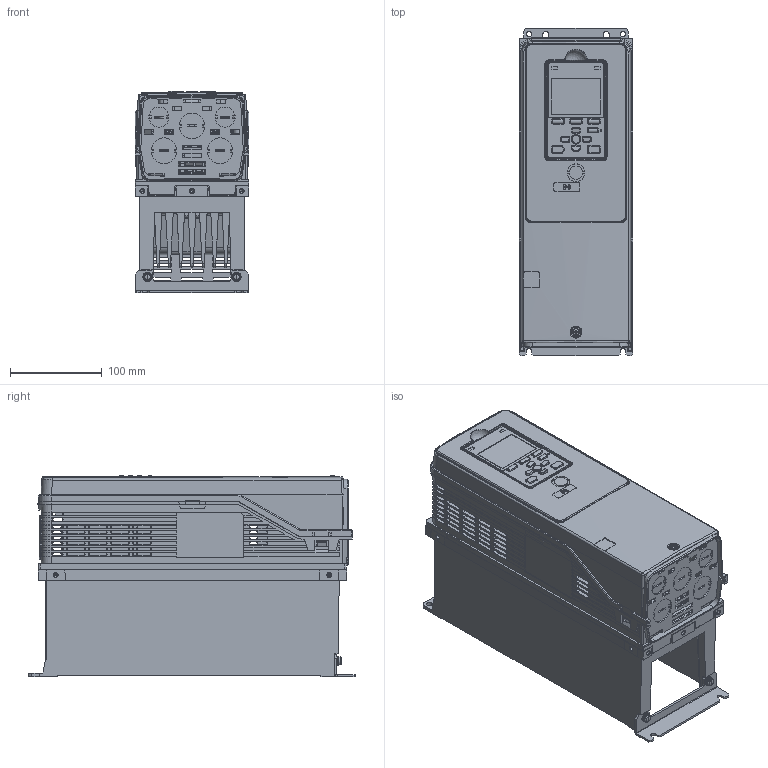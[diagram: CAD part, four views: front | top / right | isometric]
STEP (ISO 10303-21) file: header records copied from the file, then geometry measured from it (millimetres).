
FILE_DESCRIPTION((''),'2;1');
FILE_NAME('SM_HV60_FR1A_T1','2019-10-17T',('jmattas'),(''),'PRO/ENGINEER BY PARAMETRIC TECHNOLOGY CORPORATION, 2015110','PRO/ENGINEER BY PARAMETRIC TECHNOLOGY CORPORATION, 2015110','');
FILE_SCHEMA(('CONFIG_CONTROL_DESIGN'));
Products named in the file (7): SM_HV60_FR1A_T1_BASE; SM_HV60_FR1A_T1_COVER1; SM_HV60_FR1A_T1_KEYPAD; SM_HV60_FR1A_T1_COVER2; SM_HV60_FR1A_T1_COVER3; SM_HV60_FR1A_T1_BRACKET1; SM_HV60_FR1A_T1
Assembly tree (6 placements, depth 2):
  SM_HV60_FR1A_T1
    SM_HV60_FR1A_T1_BASE
    SM_HV60_FR1A_T1_COVER1
    SM_HV60_FR1A_T1_KEYPAD
    SM_HV60_FR1A_T1_COVER2
    SM_HV60_FR1A_T1_COVER3
    SM_HV60_FR1A_T1_BRACKET1
Bounding box: 124 x 357 x 219.5 mm (x, y, z)
Volume: 1807069.8 mm3; surface area: 957773.6 mm2
Topology: 6 solids, 9 shells, 6392 faces, 18095 edges, 11677 vertices
Faces by surface type: plane 4051, cylinder 1549, cone 400, bspline 183, torus 146, sphere 58, extrusion 5
Entity records: 223260 total; most frequent: CARTESIAN_POINT 58750, ORIENTED_EDGE 36078, DIRECTION 31896, EDGE_CURVE 18039, VECTOR 12620, LINE 12615, VERTEX_POINT 11677, AXIS2_PLACEMENT_3D 9638
